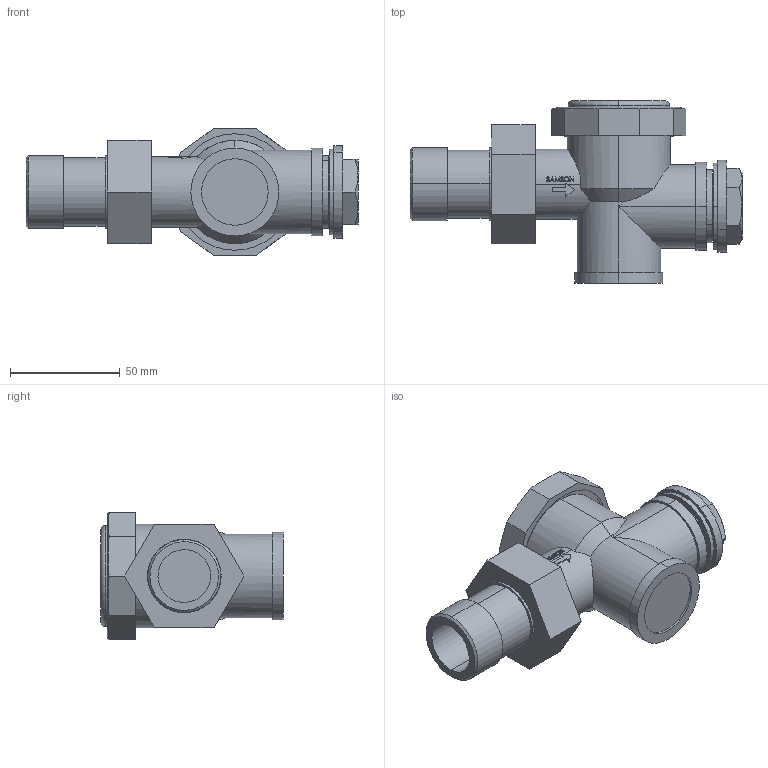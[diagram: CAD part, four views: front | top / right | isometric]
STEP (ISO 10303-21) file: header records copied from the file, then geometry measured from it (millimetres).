
FILE_DESCRIPTION (( 'STEP AP203' ), '1' );
FILE_NAME ('Typ13E_2013_AV_DIN_1G_#_#_#_std.STEP', '2010-06-21T12:40:54', ( '' ), ( '' ), 'SwSTEP 2.0', 'SolidWorks 2006303', '' );
FILE_SCHEMA (( 'CONFIG_CONTROL_DESIGN' ));
Length unit declared in the file: millimetre
Products named in the file (1): Typ13E_2013_AV_DIN_1G_#_#_#_std
Bounding box: 151 x 83 x 58 mm (x, y, z)
Volume: 230441.1 mm3; surface area: 65079.7 mm2
Topology: 8 solids, 8 shells, 314 faces, 773 edges, 509 vertices
Faces by surface type: plane 156, bspline 76, cylinder 60, cone 16, torus 6
Entity records: 13189 total; most frequent: CARTESIAN_POINT 6189, ORIENTED_EDGE 1546, DIRECTION 1189, EDGE_CURVE 773, VERTEX_POINT 509, VECTOR 413, LINE 413, AXIS2_PLACEMENT_3D 388
